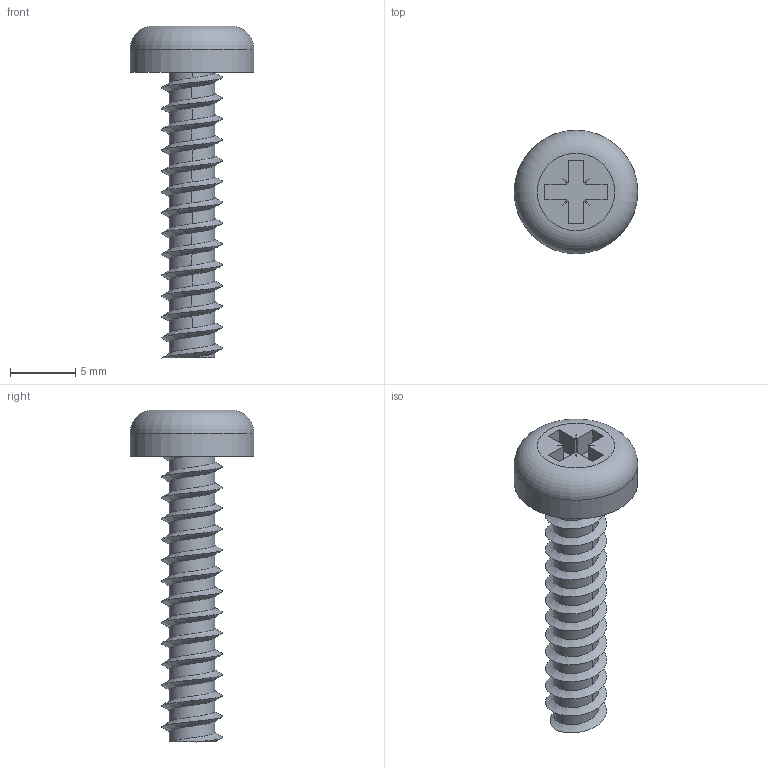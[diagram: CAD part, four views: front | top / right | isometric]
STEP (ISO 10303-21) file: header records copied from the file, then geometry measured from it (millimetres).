
FILE_DESCRIPTION(/* description */ (''),/* implementation_level */ '2;1');
FILE_NAME(/* name */ 'Pan Head Self Tapping Screw - No.10 (4.8mm) - 25mm.step',/* time_stamp */ '2025-09-01T16:30:09+03:00',/* author */ (''),/* organization */ (''),/* preprocessor_version */ 'ST-DEVELOPER v20.1',/* originating_system */ 'Autodesk Translation Framework v14.10.0.0',/* authorisation */ '');
FILE_SCHEMA (('AUTOMOTIVE_DESIGN { 1 0 10303 214 3 1 1 }'));
Length unit declared in the file: millimetre
Products named in the file (1): SPPT BASE
Bounding box: 9.5 x 9.5 x 25.52 mm (x, y, z)
Volume: 471.5 mm3; surface area: 651.7 mm2
Topology: 1 solids, 1 shells, 56 faces, 166 edges, 113 vertices
Faces by surface type: plane 36, cylinder 16, bspline 2, torus 1, cone 1
Full cylindrical faces by diameter (mm): 3.505 x11, 9.5 x1
Entity records: 9875 total; most frequent: CARTESIAN_POINT 8411, ORIENTED_EDGE 330, DIRECTION 242, EDGE_CURVE 165, VERTEX_POINT 113, LINE 112, VECTOR 112, AXIS2_PLACEMENT_3D 65
